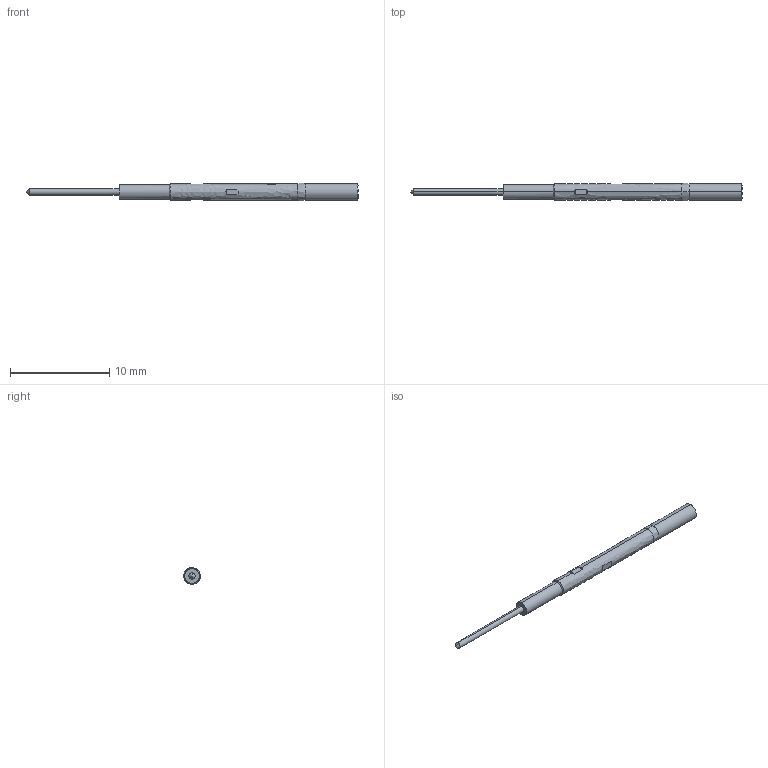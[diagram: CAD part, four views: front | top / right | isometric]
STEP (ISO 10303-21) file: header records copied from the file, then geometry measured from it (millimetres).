
FILE_DESCRIPTION (( 'STEP AP214' ), '1' );
FILE_NAME ('RA3R.STEP', '2024-07-10T09:16:54', ( '' ), ( '' ), 'SwSTEP 2.0', 'SolidWorks 2024', '' );
FILE_SCHEMA (( 'AUTOMOTIVE_DESIGN' ));
Length unit declared in the file: millimetre
Products named in the file (1): RA3R
Bounding box: 33.53 x 1.77 x 1.77 mm (x, y, z)
Volume: 21.6 mm3; surface area: 239.5 mm2
Topology: 1 solids, 1 shells, 51 faces, 114 edges, 69 vertices
Faces by surface type: bspline 51
Entity records: 1563 total; most frequent: CARTESIAN_POINT 852, ORIENTED_EDGE 224, EDGE_CURVE 112, B_SPLINE_CURVE_WITH_KNOTS 84, VERTEX_POINT 69, EDGE_LOOP 57, ADVANCED_FACE 51, FACE_OUTER_BOUND 51
